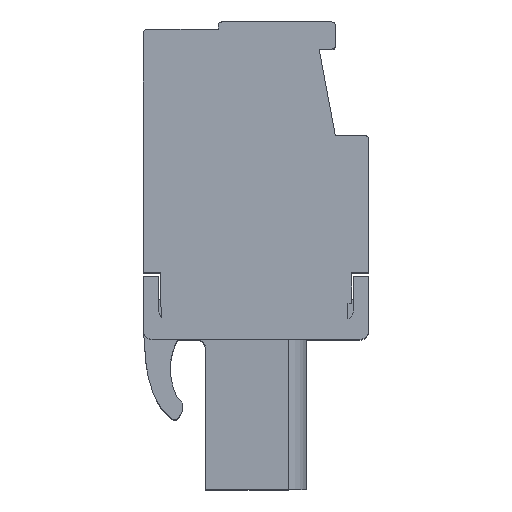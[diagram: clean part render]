
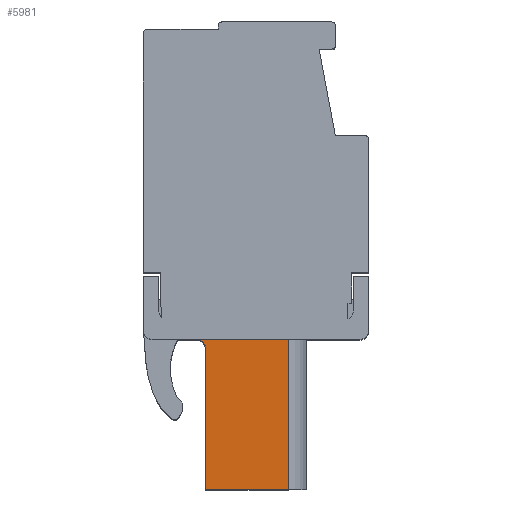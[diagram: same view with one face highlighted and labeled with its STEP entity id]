
A CAD part, top view. The second image highlights one B-rep face of the part: STEP entity #5981.
In plain terms, the highlighted planar face has unit normal (0, -0.035, 0.999).
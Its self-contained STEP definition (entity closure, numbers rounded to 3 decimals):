
#2784 = CARTESIAN_POINT ( 'NONE',  ( 8.05, -1.1, -0.25 ) ) ;
#2785 = CARTESIAN_POINT ( 'NONE',  ( 8.05, -9.4, -0.54 ) ) ;
#2791 = DIRECTION ( 'NONE',  ( 0., 0.999, 0.035 ) ) ;
#2792 = VECTOR ( 'NONE', #2791, 1000. ) ;
#2793 = CARTESIAN_POINT ( 'NONE',  ( 8.05, -5.25, -0.395 ) ) ;
#2794 = LINE ( 'NONE', #2793, #2792 ) ;
#2805 = CARTESIAN_POINT ( 'NONE',  ( 3.45, -1.6, -0.267 ) ) ;
#2806 = DIRECTION ( 'NONE',  ( 0., -0.999, -0.035 ) ) ;
#2807 = VECTOR ( 'NONE', #2806, 1000. ) ;
#2808 = CARTESIAN_POINT ( 'NONE',  ( 3.45, -5.25, -0.395 ) ) ;
#2809 = LINE ( 'NONE', #2808, #2807 ) ;
#2810 = CARTESIAN_POINT ( 'NONE',  ( 3.45, -9.4, -0.54 ) ) ;
#3593 = DIRECTION ( 'NONE',  ( 1., 0., 0. ) ) ;
#3594 = VECTOR ( 'NONE', #3593, 1000. ) ;
#3595 = CARTESIAN_POINT ( 'NONE',  ( 5.485, -9.4, -0.54 ) ) ;
#3596 = LINE ( 'NONE', #3595, #3594 ) ;
#5963 = ORIENTED_EDGE ( 'NONE', *, *, #15323, .T. ) ;
#5964 = ORIENTED_EDGE ( 'NONE', *, *, #14563, .T. ) ;
#5981 = ADVANCED_FACE ( 'NONE', ( #10280 ), #10279, .T. ) ;
#5982 = EDGE_LOOP ( 'NONE', ( #5983, #5986, #5988, #5963, #5964 ) ) ;
#5983 = ORIENTED_EDGE ( 'NONE', *, *, #5984, .T. ) ;
#5984 = EDGE_CURVE ( 'NONE', #14513, #5985, #10274, .T. ) ;
#5985 = VERTEX_POINT ( 'NONE', #10270 ) ;
#5986 = ORIENTED_EDGE ( 'NONE', *, *, #5987, .F. ) ;
#5987 = EDGE_CURVE ( 'NONE', #14553, #5985, #10325, .T. ) ;
#5988 = ORIENTED_EDGE ( 'NONE', *, *, #14551, .T. ) ;
#10270 = CARTESIAN_POINT ( 'NONE',  ( 2.95, -1.1, -0.25 ) ) ;
#10271 = DIRECTION ( 'NONE',  ( -1., 0., 0. ) ) ;
#10272 = VECTOR ( 'NONE', #10271, 1000. ) ;
#10273 = CARTESIAN_POINT ( 'NONE',  ( 6.25, -1.1, -0.25 ) ) ;
#10274 = LINE ( 'NONE', #10273, #10272 ) ;
#10275 = DIRECTION ( 'NONE',  ( 0., 0.999, 0.035 ) ) ;
#10276 = DIRECTION ( 'NONE',  ( 0., -0.035, 0.999 ) ) ;
#10277 = CARTESIAN_POINT ( 'NONE',  ( 8.05, -9.4, -0.54 ) ) ;
#10278 = AXIS2_PLACEMENT_3D ( 'NONE', #10277, #10276, #10275 ) ;
#10279 = PLANE ( 'NONE',  #10278 ) ;
#10280 = FACE_OUTER_BOUND ( 'NONE', #5982, .T. ) ;
#10321 = CARTESIAN_POINT ( 'NONE',  ( 2.95, -1.1, -0.25 ) ) ;
#10322 = CARTESIAN_POINT ( 'NONE',  ( 3.243, -1.1, -0.25 ) ) ;
#10323 = CARTESIAN_POINT ( 'NONE',  ( 3.45, -1.307, -0.257 ) ) ;
#10324 = CARTESIAN_POINT ( 'NONE',  ( 3.45, -1.6, -0.267 ) ) ;
#10325 =( BOUNDED_CURVE ( )  B_SPLINE_CURVE ( 3, ( #10324, #10323, #10322, #10321 ),
 .UNSPECIFIED., .F., .T. ) 
 B_SPLINE_CURVE_WITH_KNOTS ( ( 4, 4 ),
 ( 1.571, 3.142 ),
 .UNSPECIFIED. ) 
 CURVE ( )  GEOMETRIC_REPRESENTATION_ITEM ( )  RATIONAL_B_SPLINE_CURVE ( ( 1., 0.805, 0.805, 1. ) ) 
 REPRESENTATION_ITEM ( '' )  );
#14512 = VERTEX_POINT ( 'NONE', #2785 ) ;
#14513 = VERTEX_POINT ( 'NONE', #2784 ) ;
#14549 = VERTEX_POINT ( 'NONE', #2810 ) ;
#14551 = EDGE_CURVE ( 'NONE', #14553, #14549, #2809, .T. ) ;
#14553 = VERTEX_POINT ( 'NONE', #2805 ) ;
#14563 = EDGE_CURVE ( 'NONE', #14512, #14513, #2794, .T. ) ;
#15323 = EDGE_CURVE ( 'NONE', #14549, #14512, #3596, .T. ) ;
